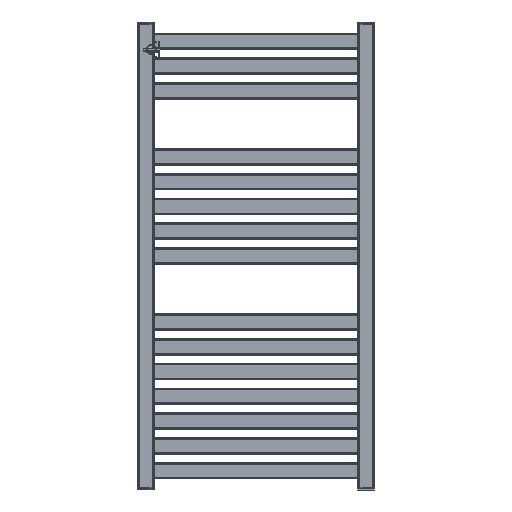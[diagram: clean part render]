
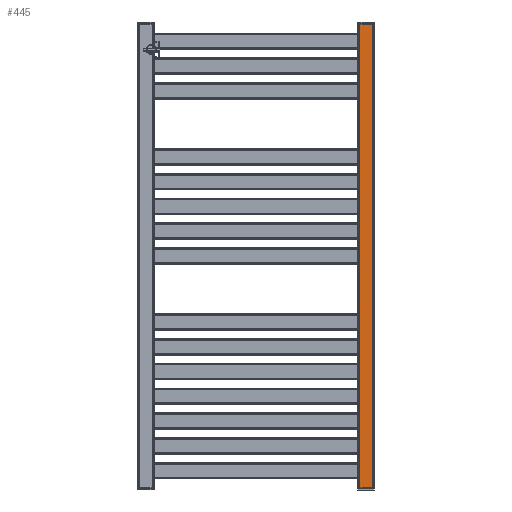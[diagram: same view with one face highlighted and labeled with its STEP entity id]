
A CAD part, front view. The second image highlights one B-rep face of the part: STEP entity #445.
In plain terms, the highlighted planar face has unit normal (0, -1, 0) as drawn and (-1, 0, 0) by its records, which use the part's own axes.
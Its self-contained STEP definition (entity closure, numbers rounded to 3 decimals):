
#445 = ADVANCED_FACE( '', ( #986 ), #987, .T. );
#986 = FACE_OUTER_BOUND( '', #1643, .T. );
#987 = PLANE( '', #1644 );
#1643 = EDGE_LOOP( '', ( #2935, #2936, #2937, #2938 ) );
#1644 = AXIS2_PLACEMENT_3D( '', #2939, #2940, #2941 );
#2935 = ORIENTED_EDGE( '', *, *, #3922, .T. );
#2936 = ORIENTED_EDGE( '', *, *, #4216, .T. );
#2937 = ORIENTED_EDGE( '', *, *, #4217, .F. );
#2938 = ORIENTED_EDGE( '', *, *, #4218, .T. );
#2939 = CARTESIAN_POINT( '', ( -15., 846., 15. ) );
#2940 = DIRECTION( '', ( -1., 0., 0. ) );
#2941 = DIRECTION( '', ( 0., 0., 1. ) );
#3922 = EDGE_CURVE( '', #4765, #4763, #4766, .T. );
#4216 = EDGE_CURVE( '', #4763, #5211, #5212, .T. );
#4217 = EDGE_CURVE( '', #5213, #5211, #5214, .T. );
#4218 = EDGE_CURVE( '', #5213, #4765, #5215, .F. );
#4763 = VERTEX_POINT( '', #5908 );
#4765 = VERTEX_POINT( '', #5910 );
#4766 = LINE( '', #5911, #5912 );
#5211 = VERTEX_POINT( '', #6498 );
#5212 = LINE( '', #6499, #6500 );
#5213 = VERTEX_POINT( '', #6501 );
#5214 = LINE( '', #6502, #6503 );
#5215 = LINE( '', #6504, #6505 );
#5908 = CARTESIAN_POINT( '', ( -15., 846., -12. ) );
#5910 = CARTESIAN_POINT( '', ( -15., 846., 12. ) );
#5911 = CARTESIAN_POINT( '', ( -15., 846., 15. ) );
#5912 = VECTOR( '', #7048, 1000. );
#6498 = CARTESIAN_POINT( '', ( -15., 0., -12. ) );
#6499 = CARTESIAN_POINT( '', ( -15., 846., -12. ) );
#6500 = VECTOR( '', #7466, 1000. );
#6501 = CARTESIAN_POINT( '', ( -15., 0., 12. ) );
#6502 = CARTESIAN_POINT( '', ( -15., 0., 15. ) );
#6503 = VECTOR( '', #7467, 1000. );
#6504 = CARTESIAN_POINT( '', ( -15., 846., 12. ) );
#6505 = VECTOR( '', #7468, 1000. );
#7048 = DIRECTION( '', ( 0., 0., -1. ) );
#7466 = DIRECTION( '', ( 0., -1., 0. ) );
#7467 = DIRECTION( '', ( 0., 0., -1. ) );
#7468 = DIRECTION( '', ( 0., -1., 0. ) );
